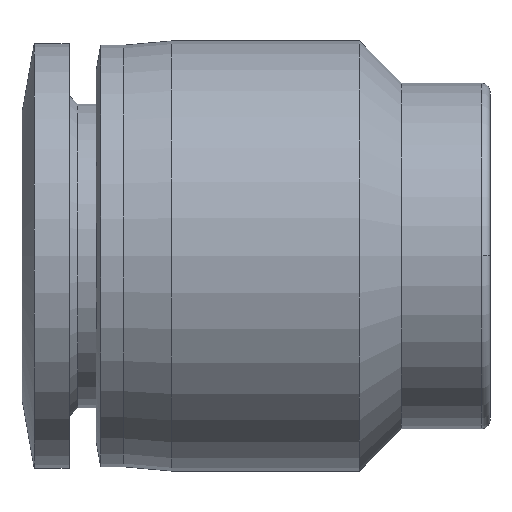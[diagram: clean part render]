
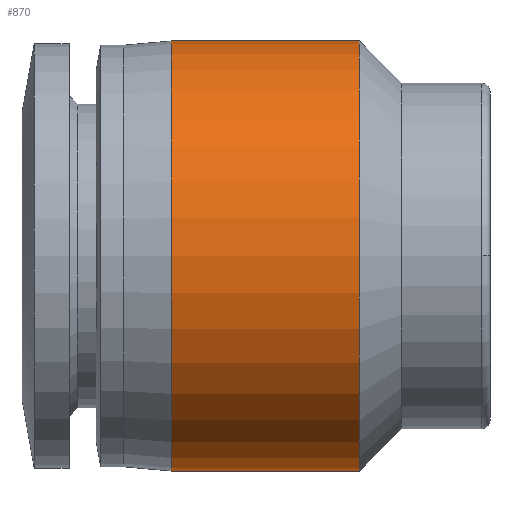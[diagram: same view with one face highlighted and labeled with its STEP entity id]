
A CAD part, top view. The second image highlights one B-rep face of the part: STEP entity #870.
In plain terms, the highlighted cylindrical face has radius 12.75 mm (diameter 25.5 mm), a partial arc.
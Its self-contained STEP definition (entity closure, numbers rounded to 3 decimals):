
#20 = EDGE_CURVE ( 'NONE', #346, #56, #281, .T. ) ;
#56 = VERTEX_POINT ( 'NONE', #122 ) ;
#122 = CARTESIAN_POINT ( 'NONE',  ( -7.75, -12.75, 0. ) ) ;
#218 = CARTESIAN_POINT ( 'NONE',  ( -13.325, -12.75, 0. ) ) ;
#219 = DIRECTION ( 'NONE',  ( 0., 1., 0. ) ) ;
#231 = AXIS2_PLACEMENT_3D ( 'NONE', #482, #547, #219 ) ;
#252 = EDGE_LOOP ( 'NONE', ( #484, #721, #678, #747 ) ) ;
#281 = LINE ( 'NONE', #218, #618 ) ;
#300 = EDGE_CURVE ( 'NONE', #806, #591, #435, .T. ) ;
#342 = DIRECTION ( 'NONE',  ( 1., 0., 0. ) ) ;
#346 = VERTEX_POINT ( 'NONE', #563 ) ;
#356 = DIRECTION ( 'NONE',  ( 1., 0., 0. ) ) ;
#373 = CARTESIAN_POINT ( 'NONE',  ( -18.9, 12.75, 0. ) ) ;
#377 = AXIS2_PLACEMENT_3D ( 'NONE', #675, #356, #899 ) ;
#435 = LINE ( 'NONE', #750, #848 ) ;
#482 = CARTESIAN_POINT ( 'NONE',  ( -7.75, 0., 0. ) ) ;
#484 = ORIENTED_EDGE ( 'NONE', *, *, #617, .T. ) ;
#508 = AXIS2_PLACEMENT_3D ( 'NONE', #536, #808, #790 ) ;
#536 = CARTESIAN_POINT ( 'NONE',  ( -13.325, 0., 0. ) ) ;
#547 = DIRECTION ( 'NONE',  ( 1., 0., 0. ) ) ;
#561 = EDGE_CURVE ( 'NONE', #591, #56, #887, .T. ) ;
#563 = CARTESIAN_POINT ( 'NONE',  ( -18.9, -12.75, 0. ) ) ;
#573 = CIRCLE ( 'NONE', #377, 12.75 ) ;
#591 = VERTEX_POINT ( 'NONE', #692 ) ;
#617 = EDGE_CURVE ( 'NONE', #806, #346, #573, .T. ) ;
#618 = VECTOR ( 'NONE', #342, 1000. ) ;
#675 = CARTESIAN_POINT ( 'NONE',  ( -18.9, 0., 0. ) ) ;
#678 = ORIENTED_EDGE ( 'NONE', *, *, #561, .F. ) ;
#692 = CARTESIAN_POINT ( 'NONE',  ( -7.75, 12.75, 0. ) ) ;
#721 = ORIENTED_EDGE ( 'NONE', *, *, #20, .T. ) ;
#747 = ORIENTED_EDGE ( 'NONE', *, *, #300, .F. ) ;
#750 = CARTESIAN_POINT ( 'NONE',  ( -13.325, 12.75, 0. ) ) ;
#772 = DIRECTION ( 'NONE',  ( 1., 0., 0. ) ) ;
#790 = DIRECTION ( 'NONE',  ( 0., 1., 0. ) ) ;
#803 = CYLINDRICAL_SURFACE ( 'NONE', #508, 12.75 ) ;
#806 = VERTEX_POINT ( 'NONE', #373 ) ;
#808 = DIRECTION ( 'NONE',  ( 1., 0., 0. ) ) ;
#848 = VECTOR ( 'NONE', #772, 1000. ) ;
#870 = ADVANCED_FACE ( 'NONE', ( #875 ), #803, .T. ) ;
#875 = FACE_OUTER_BOUND ( 'NONE', #252, .T. ) ;
#887 = CIRCLE ( 'NONE', #231, 12.75 ) ;
#899 = DIRECTION ( 'NONE',  ( 0., 1., 0. ) ) ;
